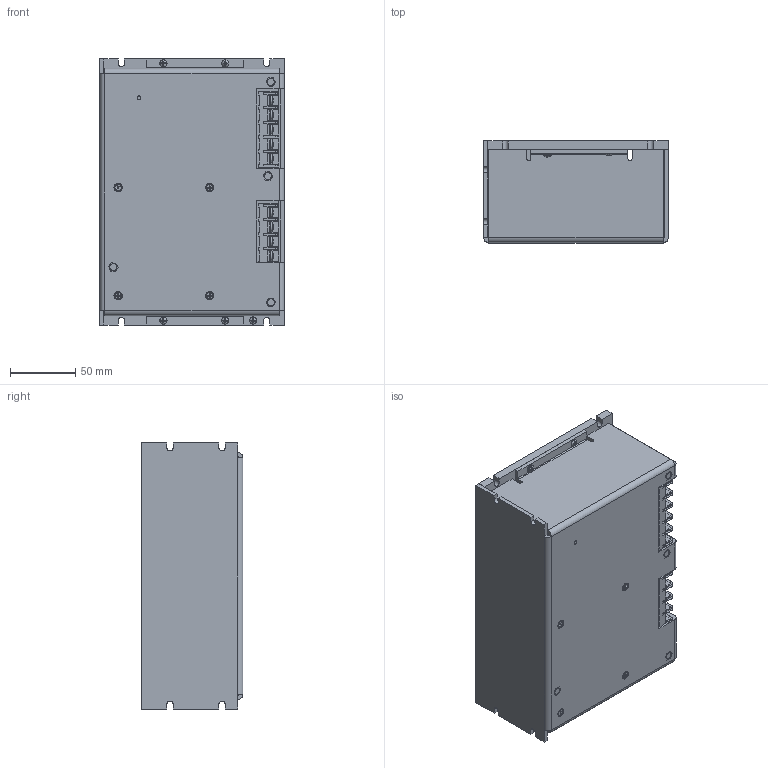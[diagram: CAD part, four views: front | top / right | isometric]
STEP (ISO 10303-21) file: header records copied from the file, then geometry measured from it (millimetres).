
FILE_DESCRIPTION((''),'2;1');
FILE_NAME('AMC_CAD_PS_PS30_ASM','2019-06-03T',('SYSTEM'),(''),'PRO/ENGINEER BY PARAMETRIC TECHNOLOGY CORPORATION, 2016360','PRO/ENGINEER BY PARAMETRIC TECHNOLOGY CORPORATION, 2016360','');
FILE_SCHEMA(('AUTOMOTIVE_DESIGN { 1 0 10303 214 1 1 1 1 }'));
Length unit declared in the file: inch
Products named in the file (82): CSPCR6-6-SOLID1; P12-2-SOLID6; DB-2-SOLID3; S16-2-SOLID1; P13-3-SOLID1; FUSE3-4-SOLID1; P12-2-SOLID2; CSPCR5-7-SOLID1; S14-3-SOLID2; CL100A-4-SOLID1; FH1-5-SOLID3; BSPLT-2-SOLID1; FH3-3-SOLID1; S8-2-SOLID1; CASE-2-SOLID1; C17-3-SOLID1; CL100A-4-SOLID3; CL100B-3-SOLID2; S12-2-SOLID2; S13-2-SOLID1; FH2-4-SOLID1; P13-3-SOLID2; BSPLT-2-SOLID2; C16-2-SOLID1; FH4-2-SOLID2; CSPCR17-2-SOLID1; CL100C-2-SOLID2; DB-2-SOLID1; FUSE2-3-SOLID1; FH2-4-SOLID3; CASE-2-SOLID3; FH4-2-SOLID1; S15-4-SOLID2; C7-6-SOLID1; S11-5-SOLID1; FH3-3-SOLID2; CASE-2-SOLID5; CL100C-2-SOLID1; CL100C-2-SOLID3; PCB-2-SOLID1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
Assembly tree (81 placements, depth 3):
  AMC_CAD_PS_PS30_ASM
    ASM0001_ASM
      CSPCR6-6-SOLID1
      P12-2-SOLID6
      DB-2-SOLID3
      S16-2-SOLID1
      P13-3-SOLID1
      FUSE3-4-SOLID1
      P12-2-SOLID2
      CSPCR5-7-SOLID1
      S14-3-SOLID2
      CL100A-4-SOLID1
      FH1-5-SOLID3
      BSPLT-2-SOLID1
      FH3-3-SOLID1
      S8-2-SOLID1
      CASE-2-SOLID1
      C17-3-SOLID1
      CL100A-4-SOLID3
      CL100B-3-SOLID2
      S12-2-SOLID2
      S13-2-SOLID1
      FH2-4-SOLID1
      P13-3-SOLID2
      BSPLT-2-SOLID2
      C16-2-SOLID1
      FH4-2-SOLID2
      CSPCR17-2-SOLID1
      CL100C-2-SOLID2
      DB-2-SOLID1
      FUSE2-3-SOLID1
      FH2-4-SOLID3
      CASE-2-SOLID3
      FH4-2-SOLID1
      S15-4-SOLID2
      C7-6-SOLID1
      S11-5-SOLID1
      FH3-3-SOLID2
      CASE-2-SOLID5
      CL100C-2-SOLID1
      CL100C-2-SOLID3
      PCB-2-SOLID1
      CL100A-4-SOLID2
      P12-2-SOLID1
      C8-7-SOLID1
      S12-2-SOLID1
      S10-4-SOLID1
      P13-3-SOLID3
      FH1-5-SOLID1
      CSPCR16-3-SOLID1
      R43-4-SOLID1
      P12-2-SOLID4
      P13-3-SOLID4
      DB-2-SOLID6
      CSPCR8-4-SOLID1
      BSPLT2-2-SOLID1
      DB-2-SOLID2
      C6-5-SOLID1
      DB-2-SOLID4
      CASE-2-SOLID4
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Bounding box: 140.89 x 77.65 x 203.2 mm (x, y, z)
Volume: 823604.1 mm3; surface area: 378674.8 mm2
Topology: 80 solids, 80 shells, 3829 faces, 10179 edges, 6626 vertices
Faces by surface type: plane 1927, cylinder 1403, cone 299, torus 142, sphere 30, bspline 28
Entity records: 177857 total; most frequent: CARTESIAN_POINT 27684, DIRECTION 21712, ORIENTED_EDGE 20342, PRESENTATION_STYLE_ASSIGNMENT 12407, STYLED_ITEM 10251, CURVE_STYLE 10171, EDGE_CURVE 10171, AXIS2_PLACEMENT_3D 7932
